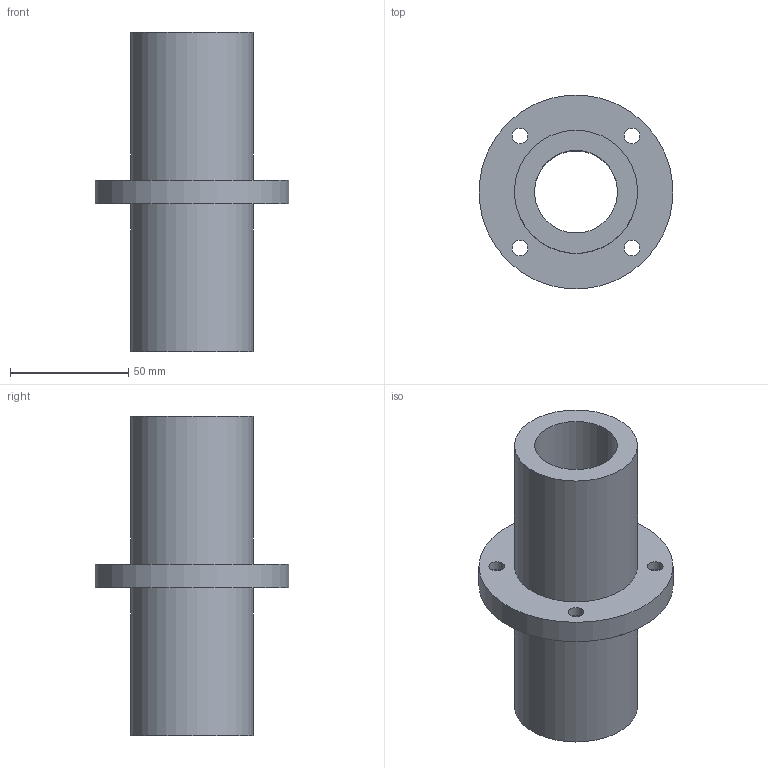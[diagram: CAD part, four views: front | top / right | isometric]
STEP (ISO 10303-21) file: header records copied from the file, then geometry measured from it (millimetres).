
FILE_DESCRIPTION(/* description */ (''),/* implementation_level */ '2;1');
FILE_NAME(/* name */ 'LMFM35LUU',/* time_stamp */ '2019-07-03T11:01:18+02:00',/* author */ ('VĂ©gh MĂˇtĂ©'),/* organization */ ('Bearing Kft'),/* preprocessor_version */ 'ST-DEVELOPER v16.7',/* originating_system */ 'DEX',/* authorisation */ $);
FILE_SCHEMA (('AUTOMOTIVE_DESIGN {1 0 10303 214 3 1 1}'));
Length unit declared in the file: millimetre
Products named in the file (1): LMFM35LUU
Bounding box: 81.69 x 81.69 x 135 mm (x, y, z)
Volume: 185526.7 mm3; surface area: 47410.3 mm2
Topology: 1 solids, 1 shells, 345 faces, 874 edges, 584 vertices
Faces by surface type: plane 270, bspline 61, cylinder 14
Full cylindrical faces by diameter (mm): 6.6 x4, 11 x4, 35 x1, 52 x2, 82 x1
Entity records: 13395 total; most frequent: CARTESIAN_POINT 5468, ORIENTED_EDGE 1714, DIRECTION 1333, EDGE_CURVE 857, LINE 707, VECTOR 707, VERTEX_POINT 580, EDGE_LOOP 421
